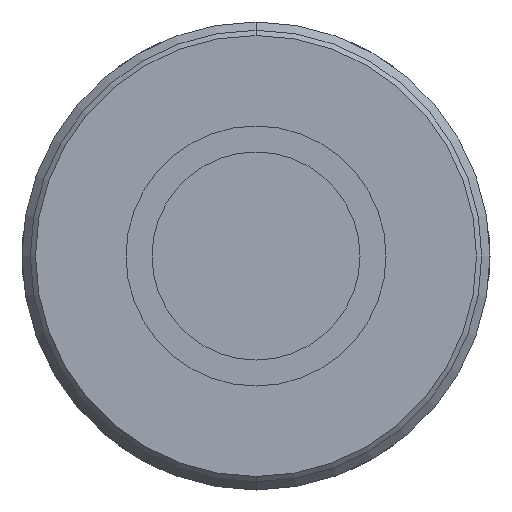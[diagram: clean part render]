
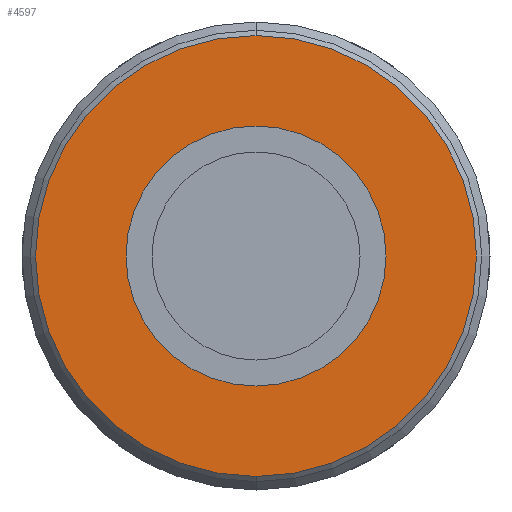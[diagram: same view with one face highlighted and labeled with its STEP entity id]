
A CAD part, front view. The second image highlights one B-rep face of the part: STEP entity #4597.
In plain terms, the highlighted planar face has unit normal (0, -1, 0).
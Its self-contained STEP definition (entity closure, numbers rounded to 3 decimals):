
#147 = EDGE_LOOP ( 'NONE', ( #9458, #6142 ) ) ;
#238 = DIRECTION ( 'NONE',  ( 0., 1., 0. ) ) ;
#245 = EDGE_LOOP ( 'NONE', ( #10506, #4445 ) ) ;
#934 = AXIS2_PLACEMENT_3D ( 'NONE', #9449, #3800, #10411 ) ;
#1316 = FACE_OUTER_BOUND ( 'NONE', #147, .T. ) ;
#1497 = EDGE_CURVE ( 'NONE', #3249, #8701, #1786, .T. ) ;
#1578 = CIRCLE ( 'NONE', #6100, 12.5 ) ;
#1786 = CIRCLE ( 'NONE', #4800, 12.5 ) ;
#1978 = PLANE ( 'NONE',  #3054 ) ;
#2083 = EDGE_CURVE ( 'NONE', #7389, #9645, #10753, .T. ) ;
#3054 = AXIS2_PLACEMENT_3D ( 'NONE', #11456, #238, #6700 ) ;
#3249 = VERTEX_POINT ( 'NONE', #5723 ) ;
#3417 = CARTESIAN_POINT ( 'NONE',  ( 0., -33.399, 0. ) ) ;
#3424 = DIRECTION ( 'NONE',  ( 0., 0., -1. ) ) ;
#3588 = CARTESIAN_POINT ( 'NONE',  ( 0., -33.399, -12.5 ) ) ;
#3766 = DIRECTION ( 'NONE',  ( 0., -1., 0. ) ) ;
#3800 = DIRECTION ( 'NONE',  ( 0., -1., 0. ) ) ;
#3815 = CARTESIAN_POINT ( 'NONE',  ( 0., -33.399, -21.2 ) ) ;
#4445 = ORIENTED_EDGE ( 'NONE', *, *, #1497, .F. ) ;
#4597 = ADVANCED_FACE ( 'NONE', ( #11012, #1316 ), #1978, .F. ) ;
#4800 = AXIS2_PLACEMENT_3D ( 'NONE', #7773, #7890, #7933 ) ;
#5298 = CARTESIAN_POINT ( 'NONE',  ( 0., -33.399, 21.2 ) ) ;
#5336 = CIRCLE ( 'NONE', #934, 21.2 ) ;
#5723 = CARTESIAN_POINT ( 'NONE',  ( 0., -33.399, 12.5 ) ) ;
#6100 = AXIS2_PLACEMENT_3D ( 'NONE', #3417, #9082, #3424 ) ;
#6142 = ORIENTED_EDGE ( 'NONE', *, *, #2083, .T. ) ;
#6361 = EDGE_CURVE ( 'NONE', #8701, #3249, #1578, .T. ) ;
#6529 = EDGE_CURVE ( 'NONE', #9645, #7389, #5336, .T. ) ;
#6700 = DIRECTION ( 'NONE',  ( 0., 0., 1. ) ) ;
#7389 = VERTEX_POINT ( 'NONE', #3815 ) ;
#7773 = CARTESIAN_POINT ( 'NONE',  ( 0., -33.399, 0. ) ) ;
#7890 = DIRECTION ( 'NONE',  ( 0., -1., 0. ) ) ;
#7933 = DIRECTION ( 'NONE',  ( 0., 0., -1. ) ) ;
#8701 = VERTEX_POINT ( 'NONE', #3588 ) ;
#9082 = DIRECTION ( 'NONE',  ( 0., -1., 0. ) ) ;
#9415 = CARTESIAN_POINT ( 'NONE',  ( 0., -33.399, 0. ) ) ;
#9449 = CARTESIAN_POINT ( 'NONE',  ( 0., -33.399, 0. ) ) ;
#9458 = ORIENTED_EDGE ( 'NONE', *, *, #6529, .T. ) ;
#9645 = VERTEX_POINT ( 'NONE', #5298 ) ;
#9667 = AXIS2_PLACEMENT_3D ( 'NONE', #9415, #3766, #10377 ) ;
#10377 = DIRECTION ( 'NONE',  ( 0., 0., -1. ) ) ;
#10411 = DIRECTION ( 'NONE',  ( 0., 0., -1. ) ) ;
#10506 = ORIENTED_EDGE ( 'NONE', *, *, #6361, .F. ) ;
#10753 = CIRCLE ( 'NONE', #9667, 21.2 ) ;
#11012 = FACE_BOUND ( 'NONE', #245, .T. ) ;
#11456 = CARTESIAN_POINT ( 'NONE',  ( -21.2, -33.399, 0. ) ) ;
